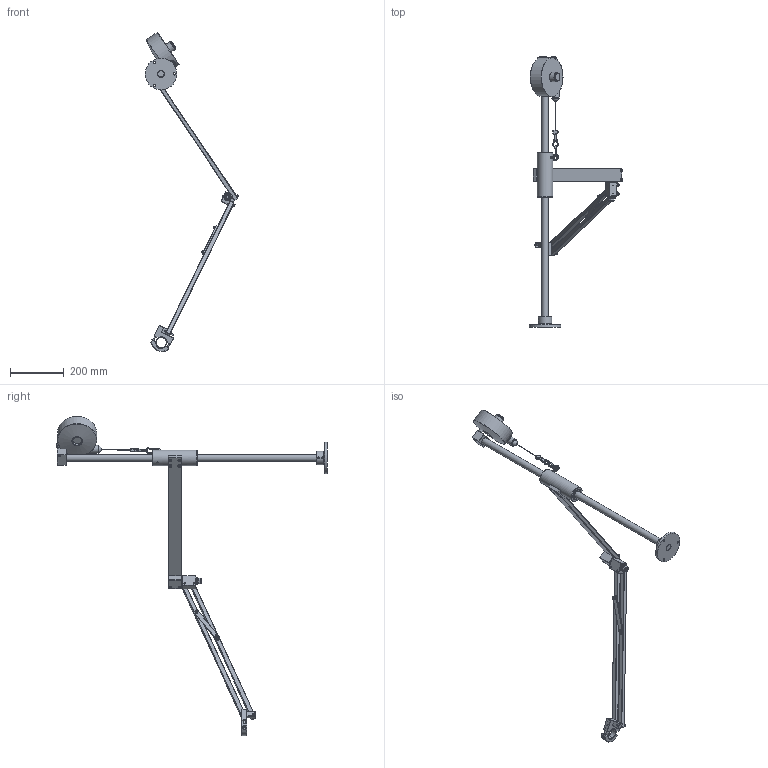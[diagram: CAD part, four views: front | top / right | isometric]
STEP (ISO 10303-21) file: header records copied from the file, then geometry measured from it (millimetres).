
FILE_DESCRIPTION( ( 'Unknown' ), '1' );
FILE_NAME( 'D:/dogabe/Industrie/Industrie 2005/05-01-2689 DOGA/4-1200277_bras BA 40 R_1000_3D/4-1200277_bras BA 40 R_1000.stp', 'Unknown', ( 'Unknown' ), ( 'Unknown' ), 'PSStep 14.0', 'Unknown', ' ' );
FILE_SCHEMA( ( 'AUTOMOTIVE_DESIGN { 1 0 10303 214 1 1 1 1 }' ) );
Length unit declared in the file: millimetre
Products named in the file (51): Asm Equilibreur BA40; CHC M8x50; Equilibreur 4-6 Kg; Entretoise; Entretoise-oa1; Vis HC M4x8 à téton; Support equilibreur; Bague; Asm arrière bras BA40R rallonge 1000; Fourreau BA40; Piton M6; Pivot 2 BA40R; Axe 16 BA40R; Plaque support BA40R ralloge 1000; CHC M6x30; Douille KB25; Douille KB25-oa9; FHC M6x20; FHC M6x20-oa10; FHC M6x20-oa11; FHC M6x20-oa12; Asm mat BA40; Vis HC M8x12 à bout plat; Vis HC M8x12 à bout plat-oa0; Pied BA40R; Axe mat BA40R; Asm avant bras BA40R-22.5  rallonge 1000; Pivot 1 BA40R; Carré supérieur BA40R rallonge 1000; Carré inférieur BA40R rallonge 1000; Règle immobilisatrice; Roulement à aiguilles HK1612; Roulement à aiguilles HK1612-oa3; 16 Z; 12 M; 12 M-oa4; Butée à aiguilles AXK1226; H M12 Nyl; CHC M6x20; CHC M6x20-oa5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
Assembly tree (52 placements, depth 3):
  Assem1
    Cable
    Asm mat BA40
      Vis HC M8x12 à bout plat
      Vis HC M8x12 à bout plat-oa0
      Pied BA40R
      Axe mat BA40R
    Asm Equilibreur BA40
      CHC M8x50
      Equilibreur 4-6 Kg
      Entretoise
      Entretoise-oa1
      Vis HC M4x8 à téton
      Support equilibreur
      Bague
    Pince BA40R
      pince BA40R
      CHC M6x45 fileté sous tete
      CHC M6x45 fileté sous tete-oa2
      Collier
      Placement'
    Asm avant bras BA40R-22.5  rallonge 1000
      Pivot 1 BA40R
      Carré supérieur BA40R rallonge 1000
      Carré inférieur BA40R rallonge 1000
      Règle immobilisatrice
      Roulement à aiguilles HK1612
      Roulement à aiguilles HK1612-oa3
      16 Z
      12 M
      12 M-oa4
      Butée à aiguilles AXK1226
      H M12 Nyl
      CHC M6x20
      CHC M6x20-oa5
      CHC M6x30
      CHC M6x30-oa6
      CHC M6x30-oa7
      CHC M6x30-oa8
    Asm arrière bras BA40R rallonge 1000
      Fourreau BA40
      Piton M6
      Pivot 2 BA40R
      Axe 16 BA40R
      Plaque support BA40R ralloge 1000
      CHC M6x30  x2
      Douille KB25
      Douille KB25-oa9
      FHC M6x20
      FHC M6x20-oa10
      FHC M6x20-oa11
      FHC M6x20-oa12
Bounding box: 349.37 x 1008.78 x 1190.68 mm (x, y, z)
Volume: 2926135.8 mm3; surface area: 521441.3 mm2
Topology: 47 solids, 47 shells, 1059 faces, 2386 edges, 1470 vertices
Faces by surface type: plane 611, cylinder 324, cone 70, torus 38, sphere 9, bspline 7
Full cylindrical faces by diameter (mm): 2 x1, 2.5 x3, 3.3 x1, 4 x1, 5 x18, 5.8 x14, 6 x27, 6.5 x2, 6.8 x3, 7 x1, 7.8 x1, 8 x3, 8.5 x5, 9 x2, 10 x11, 10.2 x1, 12 x4, 13 x3, 16 x5, 17.785 x1, 22 x3, 25 x5, 26 x2, 27 x2, 28 x2, 28.5 x1, 30 x2, 35 x2, 38 x1, 40 x5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
Entity records: 38183 total; most frequent: CARTESIAN_POINT 7663, DIRECTION 4566, ORIENTED_EDGE 3958, EDGE_CURVE 1979, AXIS2_PLACEMENT_3D 1734, EDGE_LOOP 1409, VERTEX_POINT 1321, FACE_OUTER_BOUND 1171
